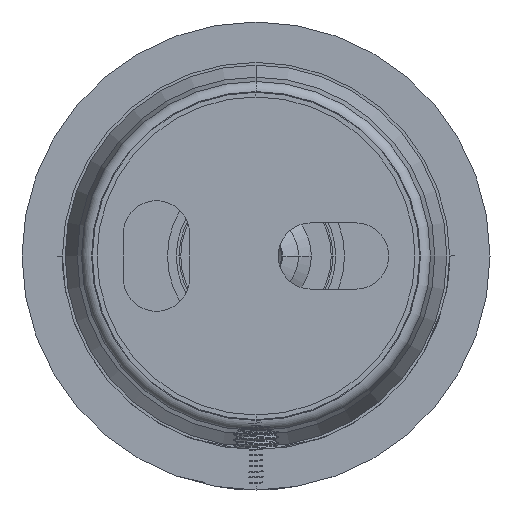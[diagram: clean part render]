
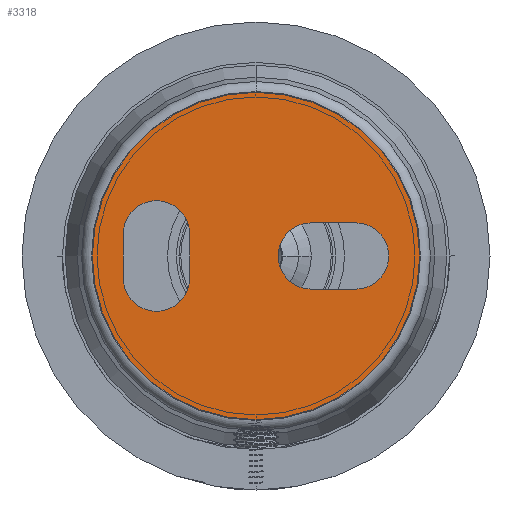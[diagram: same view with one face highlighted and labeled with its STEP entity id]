
A CAD part, front view. The second image highlights one B-rep face of the part: STEP entity #3318.
In plain terms, the highlighted planar face has unit normal (0, -1, 0) as drawn and (0, 1, 0) by its records, which use the part's own axes.
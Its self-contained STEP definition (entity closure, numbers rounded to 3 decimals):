
#2987=CARTESIAN_POINT('',(2.,6.,9.));
#2988=DIRECTION('',(0.,1.,0.));
#2989=DIRECTION('',(0.,0.,1.));
#2990=AXIS2_PLACEMENT_3D('',#2987,#2988,#2989);
#2992=DIRECTION('',(-1.,0.,0.));
#2993=VECTOR('',#2992,4.);
#2994=CARTESIAN_POINT('',(2.,6.,6.));
#2995=LINE('',#2994,#2993);
#2996=CARTESIAN_POINT('',(-2.,6.,9.));
#2997=DIRECTION('',(0.,1.,0.));
#2998=DIRECTION('',(0.,0.,-1.));
#2999=AXIS2_PLACEMENT_3D('',#2996,#2997,#2998);
#3001=DIRECTION('',(1.,0.,0.));
#3002=VECTOR('',#3001,4.);
#3003=CARTESIAN_POINT('',(-2.,6.,12.));
#3004=LINE('',#3003,#3002);
#3005=CARTESIAN_POINT('',(0.,6.,-9.));
#3006=DIRECTION('',(0.,1.,0.));
#3007=DIRECTION('',(1.,0.,0.));
#3008=AXIS2_PLACEMENT_3D('',#3005,#3006,#3007);
#3010=DIRECTION('',(0.,0.,1.));
#3011=VECTOR('',#3010,4.);
#3012=CARTESIAN_POINT('',(-3.,6.,-9.));
#3013=LINE('',#3012,#3011);
#3014=CARTESIAN_POINT('',(0.,6.,-5.));
#3015=DIRECTION('',(0.,1.,0.));
#3016=DIRECTION('',(-1.,0.,0.));
#3017=AXIS2_PLACEMENT_3D('',#3014,#3015,#3016);
#3019=DIRECTION('',(0.,0.,-1.));
#3020=VECTOR('',#3019,4.);
#3021=CARTESIAN_POINT('',(3.,6.,-5.));
#3022=LINE('',#3021,#3020);
#3023=CARTESIAN_POINT('',(0.,6.,0.));
#3024=DIRECTION('',(0.,1.,0.));
#3025=DIRECTION('',(1.,0.,0.));
#3026=AXIS2_PLACEMENT_3D('',#3023,#3024,#3025);
#3028=CARTESIAN_POINT('',(0.,6.,0.));
#3029=DIRECTION('',(0.,1.,0.));
#3030=DIRECTION('',(-1.,0.,0.));
#3031=AXIS2_PLACEMENT_3D('',#3028,#3029,#3030);
#3247=CARTESIAN_POINT('',(14.79,6.,0.));
#3248=CARTESIAN_POINT('',(-14.79,6.,0.));
#3249=VERTEX_POINT('',#3247);
#3250=VERTEX_POINT('',#3248);
#3255=CARTESIAN_POINT('',(2.,6.,12.));
#3256=CARTESIAN_POINT('',(2.,6.,6.));
#3257=VERTEX_POINT('',#3255);
#3258=VERTEX_POINT('',#3256);
#3259=CARTESIAN_POINT('',(-2.,6.,6.));
#3260=VERTEX_POINT('',#3259);
#3261=CARTESIAN_POINT('',(-2.,6.,12.));
#3262=VERTEX_POINT('',#3261);
#3271=CARTESIAN_POINT('',(3.,6.,-9.));
#3272=CARTESIAN_POINT('',(-3.,6.,-9.));
#3273=VERTEX_POINT('',#3271);
#3274=VERTEX_POINT('',#3272);
#3275=CARTESIAN_POINT('',(-3.,6.,-5.));
#3276=VERTEX_POINT('',#3275);
#3277=CARTESIAN_POINT('',(3.,6.,-5.));
#3278=VERTEX_POINT('',#3277);
#3287=CARTESIAN_POINT('',(0.,6.,0.));
#3288=DIRECTION('',(0.,-1.,0.));
#3289=DIRECTION('',(-1.,0.,0.));
#3290=AXIS2_PLACEMENT_3D('',#3287,#3288,#3289);
#3291=PLANE('',#3290);
#3293=ORIENTED_EDGE('',*,*,#3292,.F.);
#3295=ORIENTED_EDGE('',*,*,#3294,.F.);
#3296=EDGE_LOOP('',(#3293,#3295));
#3297=FACE_OUTER_BOUND('',#3296,.F.);
#3299=ORIENTED_EDGE('',*,*,#3298,.T.);
#3301=ORIENTED_EDGE('',*,*,#3300,.T.);
#3303=ORIENTED_EDGE('',*,*,#3302,.T.);
#3305=ORIENTED_EDGE('',*,*,#3304,.T.);
#3306=EDGE_LOOP('',(#3299,#3301,#3303,#3305));
#3307=FACE_BOUND('',#3306,.F.);
#3309=ORIENTED_EDGE('',*,*,#3308,.T.);
#3311=ORIENTED_EDGE('',*,*,#3310,.T.);
#3313=ORIENTED_EDGE('',*,*,#3312,.T.);
#3315=ORIENTED_EDGE('',*,*,#3314,.T.);
#3316=EDGE_LOOP('',(#3309,#3311,#3313,#3315));
#3317=FACE_BOUND('',#3316,.F.);
#3318=ADVANCED_FACE('',(#3297,#3307,#3317),#3291,.F.);
#2991=CIRCLE('',#2990,3.);
#3000=CIRCLE('',#2999,3.);
#3009=CIRCLE('',#3008,3.);
#3018=CIRCLE('',#3017,3.);
#3027=CIRCLE('',#3026,14.79);
#3032=CIRCLE('',#3031,14.79);
#3292=EDGE_CURVE('',#3249,#3250,#3027,.T.);
#3294=EDGE_CURVE('',#3250,#3249,#3032,.T.);
#3298=EDGE_CURVE('',#3273,#3274,#3009,.T.);
#3300=EDGE_CURVE('',#3274,#3276,#3013,.T.);
#3302=EDGE_CURVE('',#3276,#3278,#3018,.T.);
#3304=EDGE_CURVE('',#3278,#3273,#3022,.T.);
#3308=EDGE_CURVE('',#3257,#3258,#2991,.T.);
#3310=EDGE_CURVE('',#3258,#3260,#2995,.T.);
#3312=EDGE_CURVE('',#3260,#3262,#3000,.T.);
#3314=EDGE_CURVE('',#3262,#3257,#3004,.T.);
